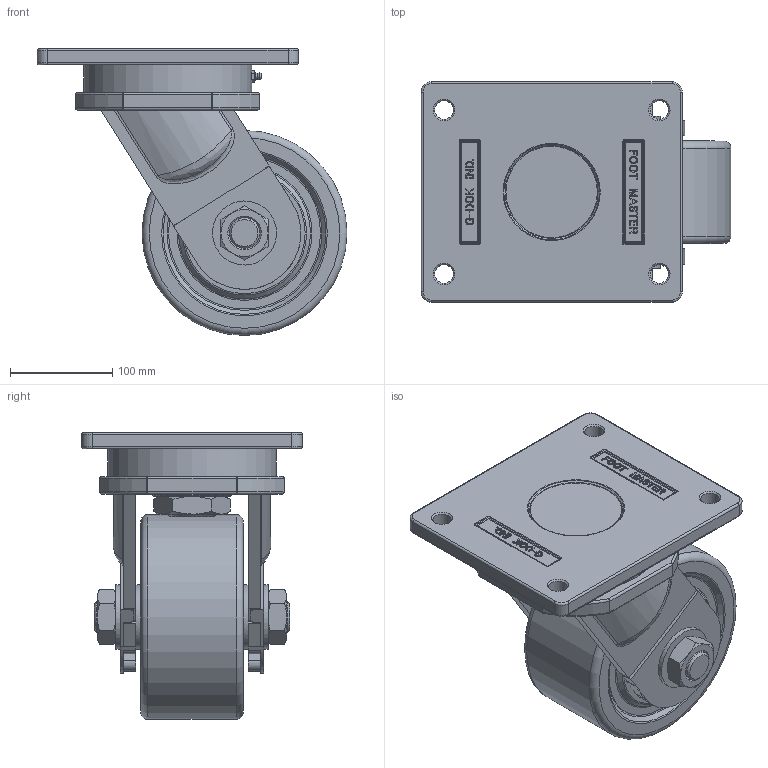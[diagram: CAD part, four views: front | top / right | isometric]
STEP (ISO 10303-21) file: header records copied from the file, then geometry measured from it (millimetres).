
FILE_DESCRIPTION((''),'2;1');
FILE_NAME('C:\Documents and Settings\Administrator\바탕 화면\3D STEP\UGXT-SERIES\UGXT-200\UGXT-200-SF.stp','2010-12-27T15:18:01',('Administrator'),(''),'Autodesk Inventor 2009','Autodesk Inventor 2009','');
FILE_SCHEMA(('AUTOMOTIVE_DESIGN { 1 0 10303 214 1 1 1 1 }'));
Length unit declared in the file: millimetre
Products named in the file (1): UGXT-200-SF
Bounding box: 302.5 x 215 x 280 mm (x, y, z)
Volume: 5309104.7 mm3; surface area: 600012.1 mm2
Topology: 16 solids, 16 shells, 824 faces, 2008 edges, 1264 vertices
Faces by surface type: plane 352, cylinder 163, bspline 156, cone 83, torus 54, sphere 16
Full cylindrical faces by diameter (mm): 1 x4, 6 x1, 18 x4, 30 x4, 30.5 x2, 38 x2, 38.5 x2, 48 x2, 48.5 x1, 49.8 x1, 50 x7, 60 x2, 62.5 x4, 63.334 x6, 66 x1, 76.666 x6, 78 x2, 80 x2, 90 x6, 109.6 x1, 110 x1, 111.2 x1, 112 x1, 145 x2, 148 x1, 152 x1, 156 x1, 164 x1, 170 x1, 200.001 x1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
Entity records: 25219 total; most frequent: CARTESIAN_POINT 7890, ORIENTED_EDGE 3432, DIRECTION 3269, EDGE_CURVE 1716, VERTEX_POINT 1188, AXIS2_PLACEMENT_3D 1182, EDGE_LOOP 1124, VECTOR 905
